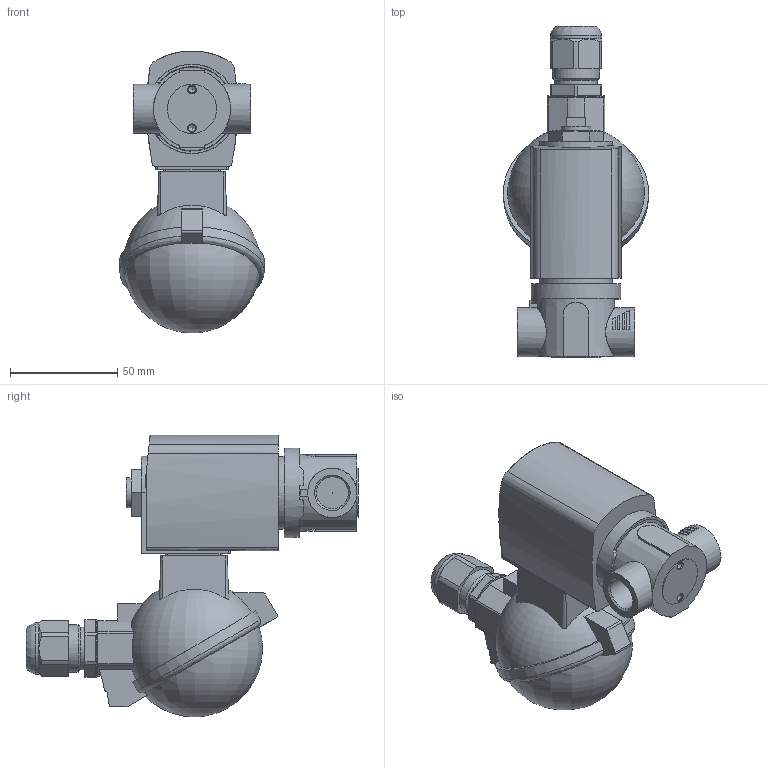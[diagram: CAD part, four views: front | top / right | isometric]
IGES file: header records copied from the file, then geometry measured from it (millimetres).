
Start section: Data from Parasolid IGES Translator 26.0.171, Copyright(c) 2006 Siemens PLM Software. All Rights Reserved.
Global section: file name: 6027-A-3-PTFE___PEEK-VA-G_3_8-42-024___UC.igs; native system: By Siemens PLM Incorporated; preprocessor: XPlus GENERIC/IGES 26.0.171; author: Noname; organization: Noname; date: 20240321.235230; units: millimetre
Bounding box: 67.86 x 155.1 x 131.7 mm (x, y, z)
Surface area: 50043.3 mm2 (no closed solid volume)
Topology: 0 solids, 0 shells, 220 faces, 1155 edges, 1131 vertices
Faces by surface type: extrusion 121, revolution 99
